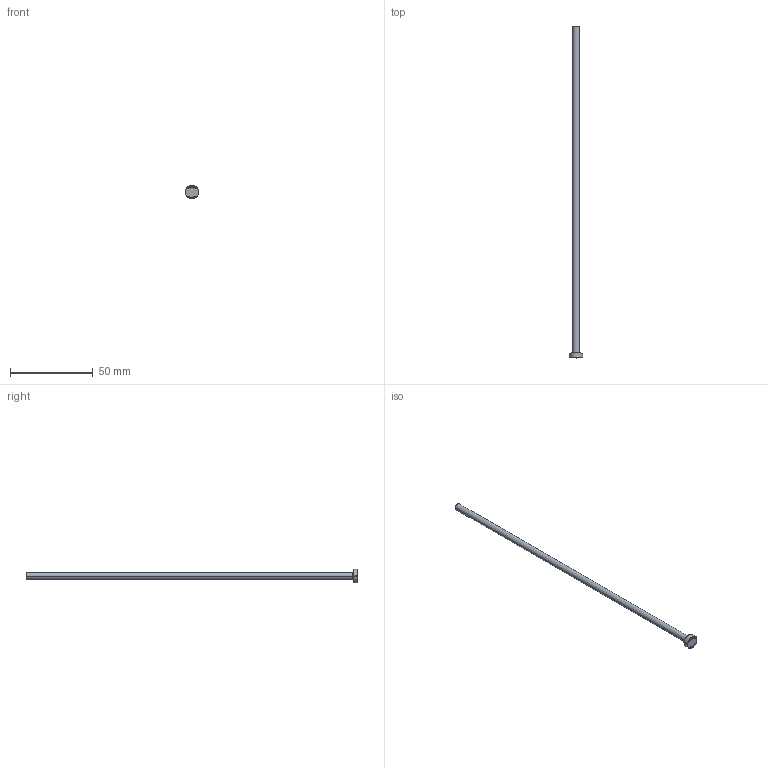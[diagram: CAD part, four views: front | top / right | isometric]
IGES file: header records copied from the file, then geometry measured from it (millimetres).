
Start section: SolidWorks IGES file using analytic representation for surfaces
Global section: file name: C:\Users\User\Downloads\Matripeça 31-08 tar\PB - PINO EXTRATOR TIPO _B_ (CATÁLOGO)\PB04,0\PB04,0200.IGS; native system: SolidWorks 2024; preprocessor: SolidWorks 2024; author: User; date: 260901.142130; units: millimetre
Bounding box: 8 x 200 x 8 mm (x, y, z)
Surface area: 2656.3 mm2 (no closed solid volume)
Topology: 0 solids, 0 shells, 402 faces, 3425 edges, 3425 vertices
Faces by surface type: bspline 388, revolution 14
